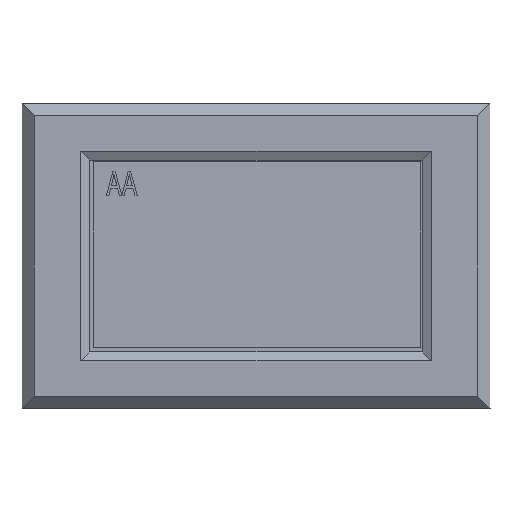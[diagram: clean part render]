
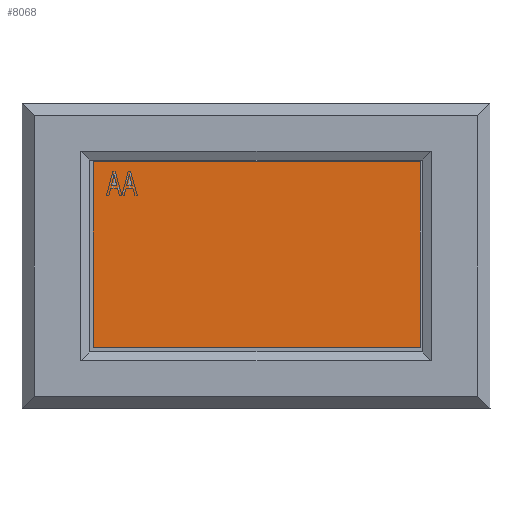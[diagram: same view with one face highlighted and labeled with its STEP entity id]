
A CAD part, top view. The second image highlights one B-rep face of the part: STEP entity #8068.
In plain terms, the highlighted planar face has unit normal (0, 0, 1) as drawn and (0, 0, -1) by its records, which use the part's own axes.
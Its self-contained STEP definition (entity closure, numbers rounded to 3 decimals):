
#5948=FACE_OUTER_BOUND('',#12630,.T.);
#8068=ADVANCED_FACE('',(#5948),#10238,.T.);
#10238=PLANE('',#40741);
#12630=EDGE_LOOP('',(#15915,#15916,#15917,#15918));
#15915=ORIENTED_EDGE('',*,*,#27847,.T.);
#15916=ORIENTED_EDGE('',*,*,#27851,.T.);
#15917=ORIENTED_EDGE('',*,*,#27854,.T.);
#15918=ORIENTED_EDGE('',*,*,#27856,.T.);
#24521=VERTEX_POINT('',#53574);
#24522=VERTEX_POINT('',#53576);
#24524=VERTEX_POINT('',#53582);
#24526=VERTEX_POINT('',#53588);
#27847=EDGE_CURVE('',#24522,#24521,#32449,.T.);
#27851=EDGE_CURVE('',#24521,#24524,#32453,.T.);
#27854=EDGE_CURVE('',#24524,#24526,#32456,.T.);
#27856=EDGE_CURVE('',#24526,#24522,#32458,.T.);
#32449=LINE('',#53575,#36669);
#32453=LINE('',#53583,#36673);
#32456=LINE('',#53589,#36676);
#32458=LINE('',#53592,#36678);
#36669=VECTOR('',#44105,1.);
#36673=VECTOR('',#44111,1.);
#36676=VECTOR('',#44116,1.);
#36678=VECTOR('',#44120,1.);
#40741=AXIS2_PLACEMENT_3D('',#53594,#44123,#44124);
#44105=DIRECTION('',(0.,1.,0.));
#44111=DIRECTION('',(1.,0.,0.));
#44116=DIRECTION('',(0.,-1.,0.));
#44120=DIRECTION('',(-1.,0.,0.));
#44123=DIRECTION('',(0.,0.,-1.));
#44124=DIRECTION('',(-1.,0.,0.));
#53574=CARTESIAN_POINT('',(73.13,49.145,-8.22));
#53575=CARTESIAN_POINT('',(73.13,-4.715,-8.22));
#53576=CARTESIAN_POINT('',(73.13,-4.715,-8.22));
#53582=CARTESIAN_POINT('',(168.17,49.145,-8.22));
#53583=CARTESIAN_POINT('',(73.13,49.145,-8.22));
#53588=CARTESIAN_POINT('',(168.17,-4.715,-8.22));
#53589=CARTESIAN_POINT('',(168.17,49.145,-8.22));
#53592=CARTESIAN_POINT('',(168.17,-4.715,-8.22));
#53594=CARTESIAN_POINT('',(0.,0.,-8.22));
